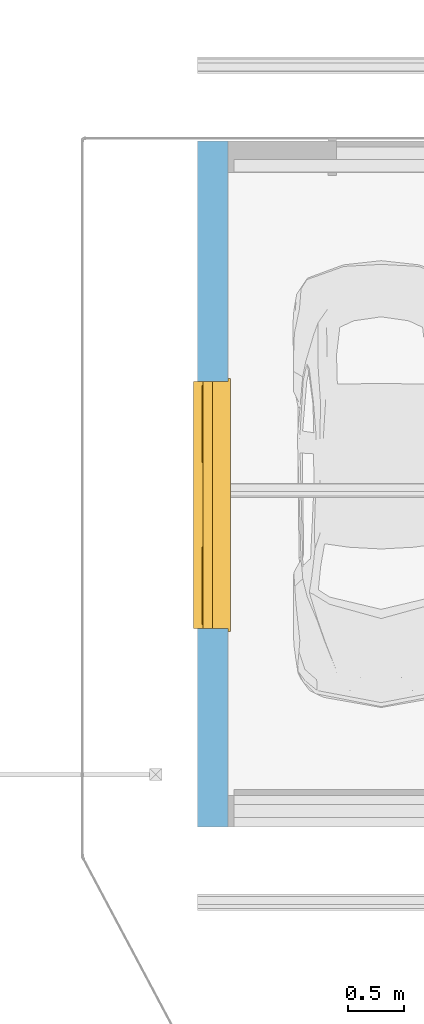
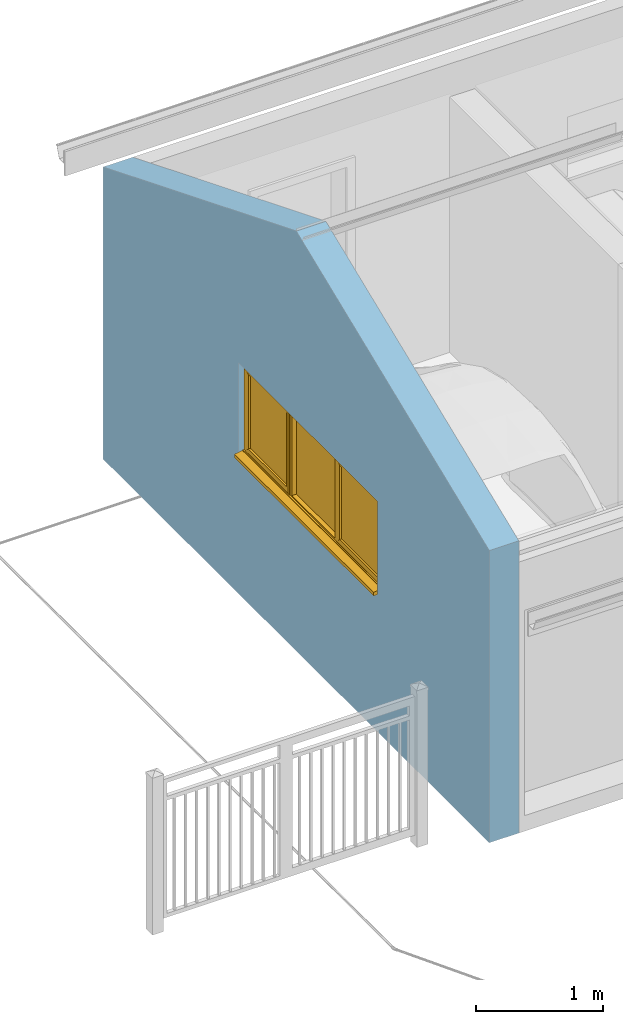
# One storey, part 11 of 41: 1 window, 1 opening, plus 1 element that does not belong to this part.
"""IFC2X3 building model written with IfcOpenShell, lengths in millimetres."""

from ifc_helpers import new_model, entity, si_unit, converted_unit, derived_unit, direction, frame, frame_2d, origin, place, context, subcontext, project, spatial, polyline, rectangle, extrude, clip, bounded_halfspace, faceted_brep, source, transform, mapped, material, material_list, layer, layer_set, layer_usage, type_object, type_shapes, element, fill, save


model = new_model("IFC2X3")

# Units and contexts
model_context = context("Model", 3, precision=0.01, world=origin(), true_north=direction((6.12303176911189e-17, 1.0)))
body_context = subcontext(model_context, "Body", "Model", "MODEL_VIEW")
ifc_project = project(units=[si_unit("LENGTHUNIT", "METRE", prefix="MILLI"), si_unit("AREAUNIT", "SQUARE_METRE"), si_unit("VOLUMEUNIT", "CUBIC_METRE"), converted_unit("PLANEANGLEUNIT", "DEGREE", entity("IfcRatioMeasure", 0.0174532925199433), si_unit("PLANEANGLEUNIT", "RADIAN"), dimensions=[0, 0, 0, 0, 0, 0, 0]), si_unit("MASSUNIT", "GRAM", prefix="KILO"), derived_unit("MASSDENSITYUNIT", [(si_unit("MASSUNIT", "GRAM", prefix="KILO"), 1), (si_unit("LENGTHUNIT", "METRE"), -3)]), si_unit("TIMEUNIT", "SECOND"), si_unit("FREQUENCYUNIT", "HERTZ"), si_unit("THERMODYNAMICTEMPERATUREUNIT", "DEGREE_CELSIUS"), derived_unit("THERMALTRANSMITTANCEUNIT", [(si_unit("MASSUNIT", "GRAM", prefix="KILO"), 1), (si_unit("THERMODYNAMICTEMPERATUREUNIT", "KELVIN"), -1), (si_unit("TIMEUNIT", "SECOND"), -3)]), derived_unit("VOLUMETRICFLOWRATEUNIT", [(si_unit("LENGTHUNIT", "METRE"), 3), (si_unit("TIMEUNIT", "SECOND"), -1)]), si_unit("ELECTRICCURRENTUNIT", "AMPERE"), si_unit("ELECTRICVOLTAGEUNIT", "VOLT"), si_unit("POWERUNIT", "WATT"), si_unit("FORCEUNIT", "NEWTON", prefix="KILO"), si_unit("ILLUMINANCEUNIT", "LUX"), si_unit("LUMINOUSFLUXUNIT", "LUMEN"), si_unit("LUMINOUSINTENSITYUNIT", "CANDELA"), derived_unit("USERDEFINED", [(si_unit("MASSUNIT", "GRAM", prefix="KILO"), -1), (si_unit("LENGTHUNIT", "METRE"), -2), (si_unit("TIMEUNIT", "SECOND"), 3), (si_unit("LUMINOUSFLUXUNIT", "LUMEN"), 1)]), derived_unit("LINEARVELOCITYUNIT", [(si_unit("LENGTHUNIT", "METRE"), 1), (si_unit("TIMEUNIT", "SECOND"), -1)]), si_unit("PRESSUREUNIT", "PASCAL"), derived_unit("USERDEFINED", [(si_unit("LENGTHUNIT", "METRE"), -2), (si_unit("MASSUNIT", "GRAM", prefix="KILO"), 1), (si_unit("TIMEUNIT", "SECOND"), -2)])], contexts=[model_context])

# Site, building, storey
site_placement = place(None, origin())
site = spatial("IfcSite", under=ifc_project, at=site_placement, Name="Surface", CompositionType="ELEMENT")
building_placement = place(site_placement, origin())
building = spatial("IfcBuilding", under=site, at=building_placement, CompositionType="ELEMENT")
storey_placement = place(building_placement, frame((0.0, 0.0, 300.0)))
storey = spatial("IfcBuildingStorey", under=building, at=storey_placement, Name="F.F.L", CompositionType="ELEMENT", Elevation=300.0)

# Wall, opening, window
ifc_material_1 = material(Name="Brickwork - Facebrick (Plettenberg Autumn)")
ifc_layer_1 = layer(ifc_material_1, 110.0)
ifc_material_2 = material(Name="Air Infiltration Barrier")
ifc_layer_2 = layer(ifc_material_2, 50.0)
ifc_layer_3 = layer(ifc_material_1, 110.0)
ifc_layer_set = layer_set([ifc_layer_1, ifc_layer_2, ifc_layer_3], Name="Basic Wall:BrickWall - 270mm (Ext.F&Int.F)")
ifc_layer_usage = layer_usage(ifc_layer_set, "AXIS2", "POSITIVE", -135.0)
wall_type = type_object("IfcWallType", Name="Basic Wall:BrickWall - 270mm (Ext.F&Int.F)", PredefinedType="STANDARD", material=ifc_layer_set)
wall_placement = place(storey_placement, frame((-11951.8751700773, 10825.8400891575, -150.0), z_axis=(0.0, 0.0, 1.0), x_axis=(0.0, -1.0, 0.0)))
wall = element("IfcWallStandardCase", 1, at=wall_placement, inside=storey, type_object=wall_type, material=ifc_layer_usage, Name="Basic Wall:BrickWall - 270mm (Ext.F&Int.F)", ObjectType="Basic Wall:BrickWall - 270mm (Ext.F&Int.F)", context=body_context, shape_type="Clipping", body=[
    clip(clip(extrude(rectangle(XDim=6105.0, YDim=269.999999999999, at=frame_2d((3052.5, 0.0), x_axis=(-1.0, 0.0))), origin(), (0.0, 0.0, 1.0), 4052.66201849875), bounded_halfspace(frame((3053.24921318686, -135.0, 4052.66201849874), z_axis=(0.374606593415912, 0.0, 0.927183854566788), x_axis=(0.0, 1.0, 0.0)), False, frame((3053.24921318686, -135.0, 4052.66201849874)), polyline([(0.0, 0.0), (3051.75078681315, 0.0), (3051.75078681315, 270.0), (0.0, 270.0), (0.0, 0.0)]))), bounded_halfspace(frame((0.0, -135.0, 2820.28006946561), z_axis=(-0.374606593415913, 0.0, 0.927183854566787), x_axis=(0.0, -1.0, 0.0)), False, frame((0.0, -135.0, 2820.28006946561)), polyline([(0.0, 0.0), (3050.25236043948, 0.0), (3050.25236043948, 270.0), (280.0, 270.0), (0.0, 270.0), (0.0, 0.0)]))),
])
opening_placement = place(wall_placement, frame((4340.0, 135.0, 1326.05036652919)))
opening = element("IfcOpeningElement", 2, at=opening_placement, cuts=wall, Name="Tpl All Bars1:Tpl All Bars:1", ObjectType="Opening", context=body_context, shape_type="SweptSolid", body=[
    extrude(rectangle(XDim=900.000000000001, YDim=2200.0, at=frame_2d((450.0, 1100.0), x_axis=(-1.0, 0.0))), frame((0.0, 0.0, 0.0), z_axis=(0.0, -1.0, 0.0), x_axis=(0.0, 0.0, 1.0)), (0.0, 0.0, 1.0), 270.0),
])
ifc_material_3 = material(Name="Meranti - Varnish Mat")
ifc_material_4 = material(Name="Glass")
ifc_material_list_1 = material_list([ifc_material_3, ifc_material_4])
ifc_material_list_2 = material_list([ifc_material_3, ifc_material_4])
window_style = type_object("IfcWindowStyle", Name="Tpl All Bars", ConstructionType="NOTDEFINED", OperationType="TRIPLE_PANEL_VERTICAL", ParameterTakesPrecedence=False, Sizeable=False, material=ifc_material_list_2)
shared_shape = source(origin(), body_context, "Body", "Brep", [
    faceted_brep([(-25.0, -25.0, 0.0), (-25.0, 0.0, 0.0), (0.0, 0.0, 0.0), (0.0, 137.0, 0.0), (2200.0, 137.0, 0.0), (2200.0, 0.0, 0.0), (2225.0, 0.0, 0.0), (2225.0, -25.0, 0.0), (-25.0, -25.0, 25.0), (2225.0, -25.0, 25.0), (2225.0, 0.0, 25.0), (2200.0, 0.0, 25.0), (2200.0, 137.0, 25.0), (0.0, 137.0, 25.0), (0.0, 0.0, 25.0), (-25.0, 0.0, 25.0)], [[[0, 1, 2, 3, 4, 5, 6, 7]], [[8, 9, 10, 11, 12, 13, 14, 15]], [[1, 0, 8, 15]], [[2, 1, 15, 14]], [[3, 2, 14, 13]], [[4, 3, 13, 12]], [[5, 4, 12, 11]], [[6, 5, 11, 10]], [[7, 6, 10, 9]], [[0, 7, 9, 8]]]),
    faceted_brep([(2140.0, 137.0, 840.0), (2140.0, 137.0, 75.0), (1499.66666666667, 137.0, 75.0), (1499.66666666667, 137.0, 840.0), (1441.66666666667, 137.0, 840.0), (1441.66666666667, 137.0, 75.0), (758.333333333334, 137.0, 75.0), (758.333333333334, 137.0, 840.0), (700.333333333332, 137.0, 840.0), (700.333333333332, 137.0, 75.0), (60.0, 137.0, 75.0), (60.0, 137.0, 840.0), (2200.0, 137.0, 900.0), (0.0, 137.0, 900.0), (0.0, 137.0, 0.0), (2200.0, 137.0, 0.0), (0.0, 220.0, 900.0), (0.0, 220.0, 51.0), (0.0, 235.0, 49.6876700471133), (0.0, 235.0, 44.7449676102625), (0.0, 307.500000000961, 33.808884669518), (0.0, 307.500000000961, 0.0), (2200.0, 220.0, 900.0), (2200.0, 220.0, 51.0), (40.0, 220.0, 860.0), (40.0, 220.0, 63.0), (718.333333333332, 220.0, 63.0), (718.333333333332, 220.0, 860.0), (758.333333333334, 220.0, 860.0), (758.333333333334, 220.0, 63.0), (1441.66666666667, 220.0, 63.0), (1441.66666666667, 220.0, 860.0), (1481.66666666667, 220.0, 860.0), (1481.66666666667, 220.0, 63.0), (2160.0, 220.0, 63.0), (2160.0, 220.0, 860.0), (40.0, 155.0, 860.0), (40.0, 155.0, 63.0), (718.333333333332, 155.0, 860.0), (718.333333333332, 155.0, 63.0), (700.333333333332, 155.0, 840.0), (60.0, 155.0, 840.0), (60.0, 155.0, 75.0), (700.333333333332, 155.0, 75.0), (2200.0, 307.500000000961, 0.0), (2200.0, 307.500000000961, 33.808884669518), (2200.0, 235.0, 44.7449676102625), (2200.0, 235.0, 49.6876700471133), (2160.0, 155.0, 63.0), (2160.0, 155.0, 860.0), (2140.0, 155.0, 840.0), (2140.0, 155.0, 75.0), (758.333333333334, 155.0, 840.0), (758.333333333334, 155.0, 75.0), (758.333333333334, 179.0, 860.0), (758.333333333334, 179.0, 63.0), (748.333333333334, 179.0, 860.0), (748.333333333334, 179.0, 63.0), (748.333333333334, 155.0, 860.0), (748.333333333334, 155.0, 63.0), (1451.66666666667, 179.0, 860.0), (1451.66666666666, 179.0, 63.0), (1451.66666666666, 155.0, 63.0), (1451.66666666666, 155.0, 860.0), (1441.66666666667, 179.0, 860.0), (1441.66666666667, 179.0, 63.0), (1481.66666666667, 155.0, 860.0), (1481.66666666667, 155.0, 63.0), (1499.66666666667, 155.0, 840.0), (1499.66666666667, 155.0, 75.0), (1441.66666666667, 155.0, 840.0), (1441.66666666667, 155.0, 75.0)], [[[0, 1, 2, 3], [4, 5, 6, 7], [8, 9, 10, 11], [12, 13, 14, 15]], [[14, 13, 16, 17, 18, 19, 20, 21]], [[17, 16, 22, 23], [24, 25, 26, 27], [28, 29, 30, 31], [32, 33, 34, 35]], [[25, 24, 36, 37]], [[36, 38, 39, 37], [40, 41, 42, 43]], [[41, 11, 10, 42]], [[13, 12, 22, 16]], [[36, 24, 27, 38]], [[11, 41, 40, 8]], [[23, 22, 12, 15, 44, 45, 46, 47]], [[35, 34, 48, 49]], [[0, 50, 51, 1]], [[52, 7, 6, 53]], [[8, 40, 43, 9]], [[27, 26, 39, 38]], [[29, 28, 54, 55]], [[55, 54, 56, 57]], [[57, 56, 58, 59]], [[60, 61, 62, 63]], [[61, 60, 64, 65]], [[65, 64, 31, 30]], [[33, 32, 66, 67]], [[68, 3, 2, 69]], [[4, 70, 71, 5]], [[44, 15, 14, 21]], [[45, 44, 21, 20]], [[46, 45, 20, 19]], [[47, 46, 19, 18]], [[23, 47, 18, 17]], [[34, 33, 67, 48]], [[2, 1, 51, 69]], [[71, 53, 6, 5]], [[43, 42, 10, 9]], [[59, 62, 61, 65, 30, 29, 55, 57]], [[26, 25, 37, 39]], [[7, 52, 70, 4]], [[50, 0, 3, 68]], [[54, 28, 31, 64, 60, 63, 58, 56]], [[35, 49, 66, 32]], [[58, 63, 62, 59], [70, 52, 53, 71]], [[66, 49, 48, 67], [50, 68, 69, 51]]], outer=[[False, False, False, True], [True], [True, False, False, False], [True], [True, False], [True], [True], [True], [True], [True], [True], [True], [True], [True], [True], [True], [True], [True], [True], [True], [True], [True], [True], [True], [True], [True], [True], [True], [True], [True], [True], [True], [True], [True], [True], [True], [True], [True], [True], [True, False], [True, False]]),
    faceted_brep([(2130.0, 184.0, 830.0), (1511.66666666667, 184.0, 830.0), (1511.66666666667, 184.0, 93.0), (2130.0, 184.0, 93.0), (2130.0, 208.0, 830.0), (2130.0, 208.0, 93.0), (1511.66666666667, 208.0, 93.0), (1511.66666666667, 208.0, 830.0)], [[[0, 1, 2, 3]], [[4, 5, 6, 7]], [[1, 0, 4, 7]], [[2, 1, 7, 6]], [[3, 2, 6, 5]], [[0, 3, 5, 4]]]),
    faceted_brep([(1451.66666666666, 179.0, 860.0), (1451.66666666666, 179.0, 63.0), (748.333333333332, 179.0, 63.0), (748.333333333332, 179.0, 860.0), (1451.66666666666, 155.0, 860.0), (748.333333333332, 155.0, 860.0), (748.333333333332, 155.0, 63.0), (1451.66666666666, 155.0, 63.0)], [[[0, 1, 2, 3]], [[4, 5, 6, 7]], [[1, 0, 4, 7]], [[2, 1, 7, 6]], [[3, 2, 6, 5]], [[0, 3, 5, 4]]]),
    faceted_brep([(70.0, 184.0, 830.148037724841), (70.0, 184.0, 93.0), (688.481371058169, 184.0, 93.0), (688.481371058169, 184.0, 830.148037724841), (70.0, 208.0, 830.148037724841), (688.481371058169, 208.0, 830.148037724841), (688.481371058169, 208.0, 93.0), (70.0, 208.0, 93.0)], [[[0, 1, 2, 3]], [[4, 5, 6, 7]], [[1, 0, 4, 7]], [[2, 1, 7, 6]], [[3, 2, 6, 5]], [[0, 3, 5, 4]]]),
    faceted_brep([(728.333333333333, 220.0, 870.0), (728.333333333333, 225.773502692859, 870.0), (30.0, 225.773502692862, 870.0), (30.0, 220.0, 870.0), (718.333333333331, 155.0, 860.0), (718.333333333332, 220.0, 860.0), (40.0, 220.0, 860.0), (40.0, 155.0, 860.0), (678.333333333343, 169.492899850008, 820.0), (688.481371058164, 155.0, 830.148037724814), (69.851962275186, 155.0, 830.148037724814), (80.0, 169.49289985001, 820.0), (678.333333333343, 184.0, 820.0), (80.0, 184.0, 820.0), (688.33333333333, 208.0, 830.0), (688.33333333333, 184.0, 830.0), (70.0, 184.0, 830.0), (70.0, 208.0, 830.0), (678.333333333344, 225.773502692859, 820.0), (678.333333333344, 208.0, 820.0), (80.0, 208.0, 820.0), (80.0, 225.773502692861, 820.0), (695.779088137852, 231.547005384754, 837.445754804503), (62.5542451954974, 231.547005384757, 837.445754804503), (717.548723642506, 231.547005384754, 859.215390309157), (40.7846096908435, 231.547005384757, 859.215390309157), (30.0, 225.773502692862, 53.0), (30.0, 220.0, 53.0), (40.0, 220.0, 63.0), (40.0, 155.0, 63.0), (69.851962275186, 155.0, 92.8519622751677), (80.0, 169.49289985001, 103.0), (80.0, 184.0, 103.0), (70.0, 184.0, 93.0), (70.0, 208.0, 93.0), (80.0, 208.0, 103.0), (80.0, 225.773502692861, 103.0), (62.5542451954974, 231.547005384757, 85.5542451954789), (40.7846096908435, 231.547005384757, 63.7846096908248), (728.333333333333, 225.773502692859, 53.0), (728.333333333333, 220.0, 53.0), (718.333333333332, 220.0, 63.0), (718.333333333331, 155.0, 63.0), (688.481371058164, 155.0, 92.8519622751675), (678.333333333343, 169.492899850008, 103.0), (678.333333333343, 184.0, 103.0), (688.333333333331, 184.0, 93.0), (688.333333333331, 208.0, 93.0), (678.333333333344, 208.0, 103.0), (678.333333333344, 225.773502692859, 103.0), (695.779088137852, 231.547005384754, 85.5542451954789), (717.548723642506, 231.547005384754, 63.784609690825)], [[[0, 1, 2, 3]], [[4, 5, 6, 7]], [[8, 9, 10, 11]], [[12, 8, 11, 13]], [[14, 15, 16, 17]], [[18, 19, 20, 21]], [[22, 18, 21, 23]], [[1, 24, 25, 2]], [[3, 2, 26, 27]], [[7, 6, 28, 29]], [[11, 10, 30, 31]], [[13, 11, 31, 32]], [[17, 16, 33, 34]], [[21, 20, 35, 36]], [[23, 21, 36, 37]], [[2, 25, 38, 26]], [[27, 26, 39, 40]], [[0, 3, 27, 40], [41, 28, 6, 5]], [[29, 28, 41, 42]], [[4, 7, 29, 42], [43, 30, 10, 9]], [[31, 30, 43, 44]], [[32, 31, 44, 45]], [[12, 13, 32, 45], [46, 33, 16, 15]], [[34, 33, 46, 47]], [[14, 17, 34, 47], [48, 35, 20, 19]], [[36, 35, 48, 49]], [[37, 36, 49, 50]], [[22, 23, 37, 50], [51, 38, 25, 24]], [[26, 38, 51, 39]], [[40, 39, 1, 0]], [[42, 41, 5, 4]], [[44, 43, 9, 8]], [[45, 44, 8, 12]], [[47, 46, 15, 14]], [[49, 48, 19, 18]], [[50, 49, 18, 22]], [[39, 51, 24, 1]]], outer=[[True], [True], [True], [True], [True], [True], [True], [True], [True], [True], [True], [True], [True], [True], [True], [True], [True], [True, False], [True], [True, False], [True], [True], [False, True], [True], [True, False], [True], [True], [False, True], [True], [True], [True], [True], [True], [True], [True], [True], [True]]),
    faceted_brep([(1471.66666666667, 220.0, 870.0), (1471.66666666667, 225.773502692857, 870.0), (1471.66666666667, 225.773502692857, 53.0), (1471.66666666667, 220.0, 53.0), (1481.66666666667, 155.0, 860.0), (1481.66666666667, 220.0, 860.0), (1481.66666666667, 220.0, 63.0), (1481.66666666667, 155.0, 63.0), (1521.66666666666, 169.492899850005, 820.0), (1511.51862894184, 155.0, 830.148037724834), (1511.51862894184, 155.0, 92.8519622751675), (1521.66666666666, 169.492899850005, 103.0), (1521.66666666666, 184.0, 820.0), (1521.66666666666, 184.0, 103.0), (1511.66666666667, 208.0, 830.0), (1511.66666666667, 184.0, 830.0), (1511.66666666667, 184.0, 93.0), (1511.66666666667, 208.0, 93.0), (1521.66666666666, 225.773502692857, 820.0), (1521.66666666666, 208.0, 820.0), (1521.66666666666, 208.0, 103.0), (1521.66666666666, 225.773502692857, 103.0), (1504.22091186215, 231.547005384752, 837.445754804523), (1504.22091186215, 231.547005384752, 85.5542451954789), (1482.45127635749, 231.547005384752, 859.215390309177), (1482.45127635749, 231.547005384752, 63.7846096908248), (2170.0, 225.773502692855, 53.0), (2170.0, 220.0, 53.0), (2160.0, 220.0, 63.0), (2160.0, 155.0, 63.0), (2130.14803772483, 155.0, 92.8519622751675), (2120.0, 169.492899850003, 103.0), (2120.0, 184.0, 103.0), (2130.0, 184.0, 93.0), (2130.0, 208.0, 93.0), (2120.0, 208.0, 103.0), (2120.0, 225.773502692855, 103.0), (2137.44575480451, 231.54700538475, 85.5542451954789), (2159.21539030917, 231.54700538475, 63.784609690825), (2170.0, 225.773502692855, 870.0), (2170.0, 220.0, 870.0), (2160.0, 220.0, 860.0), (2160.0, 155.0, 860.0), (2130.14803772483, 155.0, 830.148037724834), (2120.0, 169.492899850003, 820.0), (2120.0, 184.0, 820.0), (2130.0, 184.0, 830.0), (2130.0, 208.0, 830.0), (2120.0, 208.0, 820.0), (2120.0, 225.773502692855, 820.0), (2137.44575480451, 231.54700538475, 837.445754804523), (2159.21539030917, 231.54700538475, 859.215390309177)], [[[0, 1, 2, 3]], [[4, 5, 6, 7]], [[8, 9, 10, 11]], [[12, 8, 11, 13]], [[14, 15, 16, 17]], [[18, 19, 20, 21]], [[22, 18, 21, 23]], [[1, 24, 25, 2]], [[3, 2, 26, 27]], [[7, 6, 28, 29]], [[11, 10, 30, 31]], [[13, 11, 31, 32]], [[17, 16, 33, 34]], [[21, 20, 35, 36]], [[23, 21, 36, 37]], [[2, 25, 38, 26]], [[27, 26, 39, 40]], [[29, 28, 41, 42]], [[31, 30, 43, 44]], [[32, 31, 44, 45]], [[34, 33, 46, 47]], [[36, 35, 48, 49]], [[37, 36, 49, 50]], [[26, 38, 51, 39]], [[40, 39, 1, 0]], [[3, 27, 40, 0], [5, 41, 28, 6]], [[42, 41, 5, 4]], [[7, 29, 42, 4], [9, 43, 30, 10]], [[44, 43, 9, 8]], [[45, 44, 8, 12]], [[13, 32, 45, 12], [15, 46, 33, 16]], [[47, 46, 15, 14]], [[17, 34, 47, 14], [19, 48, 35, 20]], [[49, 48, 19, 18]], [[50, 49, 18, 22]], [[23, 37, 50, 22], [24, 51, 38, 25]], [[39, 51, 24, 1]]], outer=[[True], [True], [True], [True], [True], [True], [True], [True], [True], [True], [True], [True], [True], [True], [True], [True], [True], [True], [True], [True], [True], [True], [True], [True], [True], [True, False], [True], [True, False], [True], [True], [False, True], [True], [True, False], [True], [True], [False, True], [True]]),
    faceted_brep([(1090.0, 163.0, 63.0), (1110.0, 163.0, 63.0), (1110.0, 163.0, 318.666666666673), (1451.66666666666, 163.0, 318.666666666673), (1451.66666666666, 163.0, 338.666666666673), (1110.0, 163.0, 338.666666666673), (1110.0, 163.0, 584.333333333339), (1451.66666666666, 163.0, 584.333333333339), (1451.66666666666, 163.0, 604.333333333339), (1110.0, 163.0, 604.333333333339), (1110.0, 163.0, 860.0), (1090.0, 163.0, 860.0), (1090.0, 163.0, 604.333333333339), (748.33333333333, 163.0, 604.333333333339), (748.33333333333, 163.0, 584.333333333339), (1090.0, 163.0, 584.333333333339), (1090.0, 163.0, 338.666666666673), (748.33333333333, 163.0, 338.666666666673), (748.33333333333, 163.0, 318.666666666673), (1090.0, 163.0, 318.666666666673), (1090.0, 171.0, 63.0), (1090.0, 171.0, 318.666666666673), (748.33333333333, 171.0, 318.666666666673), (748.33333333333, 171.0, 338.666666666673), (1090.0, 171.0, 338.666666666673), (1090.0, 171.0, 584.333333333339), (748.33333333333, 171.0, 584.333333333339), (748.33333333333, 171.0, 604.333333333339), (1090.0, 171.0, 604.333333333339), (1090.0, 171.0, 860.0), (1110.0, 171.0, 860.0), (1110.0, 171.0, 604.333333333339), (1451.66666666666, 171.0, 604.333333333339), (1451.66666666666, 171.0, 584.333333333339), (1110.0, 171.0, 584.333333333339), (1110.0, 171.0, 338.666666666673), (1451.66666666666, 171.0, 338.666666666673), (1451.66666666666, 171.0, 318.666666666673), (1110.0, 171.0, 318.666666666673), (1110.0, 171.0, 63.0)], [[[0, 1, 2, 3, 4, 5, 6, 7, 8, 9, 10, 11, 12, 13, 14, 15, 16, 17, 18, 19]], [[20, 21, 22, 23, 24, 25, 26, 27, 28, 29, 30, 31, 32, 33, 34, 35, 36, 37, 38, 39]], [[1, 0, 20, 39]], [[2, 1, 39, 38]], [[3, 2, 38, 37]], [[4, 3, 37, 36]], [[5, 4, 36, 35]], [[6, 5, 35, 34]], [[7, 6, 34, 33]], [[8, 7, 33, 32]], [[9, 8, 32, 31]], [[10, 9, 31, 30]], [[11, 10, 30, 29]], [[12, 11, 29, 28]], [[13, 12, 28, 27]], [[14, 13, 27, 26]], [[15, 14, 26, 25]], [[16, 15, 25, 24]], [[17, 16, 24, 23]], [[18, 17, 23, 22]], [[19, 18, 22, 21]], [[0, 19, 21, 20]]]),
    faceted_brep([(369.166666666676, 200.0, 93.0), (369.166666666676, 200.0, 318.666666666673), (70.0, 200.0, 318.666666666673), (70.0, 200.0, 338.666666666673), (369.166666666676, 200.0, 338.666666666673), (369.166666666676, 200.0, 584.333333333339), (70.0, 200.0, 584.333333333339), (70.0, 200.0, 604.333333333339), (369.166666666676, 200.0, 604.333333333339), (369.166666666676, 200.0, 830.0), (389.166666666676, 200.0, 830.0), (389.166666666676, 200.0, 604.333333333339), (688.333333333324, 200.0, 604.333333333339), (688.333333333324, 200.0, 584.333333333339), (389.166666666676, 200.0, 584.333333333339), (389.166666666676, 200.0, 338.666666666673), (688.333333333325, 200.0, 338.666666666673), (688.333333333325, 200.0, 318.666666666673), (389.166666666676, 200.0, 318.666666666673), (389.166666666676, 200.0, 93.0), (369.166666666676, 192.0, 93.0), (389.166666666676, 192.0, 93.0), (389.166666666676, 192.0, 318.666666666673), (688.333333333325, 192.0, 318.666666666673), (688.333333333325, 192.0, 338.666666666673), (389.166666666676, 192.0, 338.666666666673), (389.166666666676, 192.0, 584.333333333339), (688.333333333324, 192.0, 584.333333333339), (688.333333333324, 192.0, 604.333333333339), (389.166666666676, 192.0, 604.333333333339), (389.166666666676, 192.0, 830.0), (369.166666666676, 192.0, 830.0), (369.166666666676, 192.0, 604.333333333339), (70.0, 192.0, 604.333333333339), (70.0, 192.0, 584.333333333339), (369.166666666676, 192.0, 584.333333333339), (369.166666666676, 192.0, 338.666666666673), (70.0, 192.0, 338.666666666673), (70.0, 192.0, 318.666666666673), (369.166666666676, 192.0, 318.666666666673)], [[[0, 1, 2, 3, 4, 5, 6, 7, 8, 9, 10, 11, 12, 13, 14, 15, 16, 17, 18, 19]], [[20, 21, 22, 23, 24, 25, 26, 27, 28, 29, 30, 31, 32, 33, 34, 35, 36, 37, 38, 39]], [[1, 0, 20, 39]], [[2, 1, 39, 38]], [[3, 2, 38, 37]], [[4, 3, 37, 36]], [[5, 4, 36, 35]], [[6, 5, 35, 34]], [[7, 6, 34, 33]], [[8, 7, 33, 32]], [[9, 8, 32, 31]], [[10, 9, 31, 30]], [[11, 10, 30, 29]], [[12, 11, 29, 28]], [[13, 12, 28, 27]], [[14, 13, 27, 26]], [[15, 14, 26, 25]], [[16, 15, 25, 24]], [[17, 16, 24, 23]], [[18, 17, 23, 22]], [[19, 18, 22, 21]], [[0, 19, 21, 20]]]),
    faceted_brep([(1810.83333333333, 200.0, 332.0), (1810.83333333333, 200.0, 93.0), (1810.83333333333, 192.0, 93.0), (1810.83333333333, 192.0, 332.0), (1511.66666666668, 200.0, 332.0), (1511.66666666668, 192.0, 332.0), (1511.66666666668, 200.0, 352.0), (1511.66666666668, 192.0, 352.0), (1810.83333333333, 200.0, 352.0), (1810.83333333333, 192.0, 352.0), (1810.83333333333, 200.0, 584.333333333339), (1810.83333333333, 192.0, 584.333333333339), (1511.66666666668, 200.0, 584.333333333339), (1511.66666666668, 192.0, 584.333333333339), (1511.66666666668, 200.0, 604.333333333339), (1511.66666666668, 192.0, 604.333333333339), (1810.83333333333, 200.0, 604.333333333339), (1810.83333333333, 192.0, 604.333333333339), (1810.83333333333, 200.0, 830.0), (1810.83333333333, 192.0, 830.0), (1830.83333333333, 200.0, 830.0), (1830.83333333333, 192.0, 830.0), (1830.83333333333, 200.0, 604.333333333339), (1830.83333333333, 192.0, 604.333333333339), (2130.0, 200.0, 604.333333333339), (2130.0, 192.0, 604.333333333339), (2130.0, 200.0, 584.333333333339), (2130.0, 192.0, 584.333333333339), (1830.83333333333, 200.0, 584.333333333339), (1830.83333333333, 192.0, 584.333333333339), (1830.83333333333, 200.0, 352.0), (1830.83333333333, 192.0, 352.0), (2130.0, 200.0, 352.0), (2130.0, 192.0, 352.0), (2130.0, 200.0, 332.0), (2130.0, 192.0, 332.0), (1830.83333333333, 200.0, 332.0), (1830.83333333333, 192.0, 332.0), (1830.83333333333, 200.0, 93.0), (1830.83333333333, 192.0, 93.0)], [[[0, 1, 2, 3]], [[4, 0, 3, 5]], [[6, 4, 5, 7]], [[8, 6, 7, 9]], [[10, 8, 9, 11]], [[12, 10, 11, 13]], [[14, 12, 13, 15]], [[16, 14, 15, 17]], [[18, 16, 17, 19]], [[20, 18, 19, 21]], [[22, 20, 21, 23]], [[24, 22, 23, 25]], [[26, 24, 25, 27]], [[28, 26, 27, 29]], [[30, 28, 29, 31]], [[32, 30, 31, 33]], [[34, 32, 33, 35]], [[36, 34, 35, 37]], [[38, 36, 37, 39]], [[1, 38, 39, 2]], [[2, 39, 37, 35, 33, 31, 29, 27, 25, 23, 21, 19, 17, 15, 13, 11, 9, 7, 5, 3]], [[1, 0, 4, 6, 8, 10, 12, 14, 16, 18, 20, 22, 24, 26, 28, 30, 32, 34, 36, 38]]]),
])
type_shapes(window_style, [shared_shape])
window_placement = place(opening_placement, frame((0.0, 0.0, 0.0), z_axis=(0.0, 0.0, 1.0), x_axis=(-1.0, 0.0, 0.0)))
window = element("IfcWindow", 3, at=window_placement, inside=storey, type_object=window_style, material=ifc_material_list_1, Name="Tpl All Bars1:Tpl All Bars", ObjectType="Tpl All Bars", OverallHeight=900.000000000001, OverallWidth=2200.0, context=body_context, shape_type="MappedRepresentation", body=[
    mapped(shared_shape, transform((0.0, 0.0, 0.0), scale=1.0)),
])
fill(opening, window)

save(model, "model.ifc")
